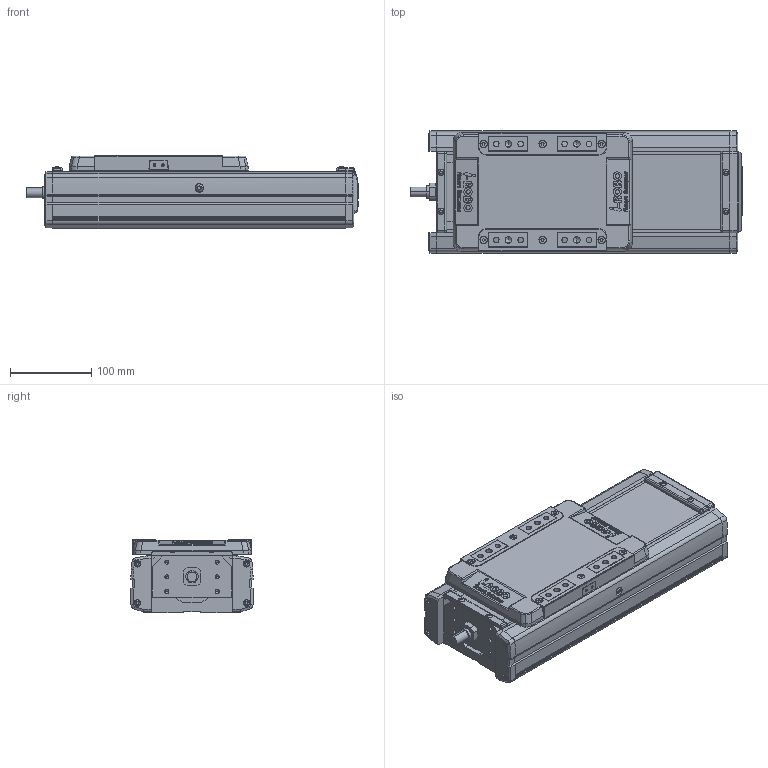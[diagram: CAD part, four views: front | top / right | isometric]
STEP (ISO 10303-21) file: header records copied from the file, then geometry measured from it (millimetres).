
FILE_DESCRIPTION(('STEP AP214'),'1');
FILE_NAME('Z:/Web/3D/SAN150/2013.04 (STP.)/SAN150ㅁㅁ-100.stp','2013-05-08T02:36:20',(' '),(' '),'Spatial InterOp 3D',' ',' ');
FILE_SCHEMA(('automotive_design'));
Length unit declared in the file: millimetre
Products named in the file (33): SLBL-SAN150; SLCV-SAN150; FHCS M4.0 x 8.0; BHCS M4.0 x 10.0; SFX-SAN150; RRCV-SAN150; FRBL-SAN150; Spacer; RN15; FRCV-SAN150; Screw 20; BASE-SAN150-000L ; SUS COVER; 스크루 : Round - M5.0 x 6.0
Bounding box: 408 x 150 x 90 mm (x, y, z)
Volume: 2761720.6 mm3; surface area: 527037.9 mm2
Topology: 33 solids, 33 shells, 1899 faces, 4905 edges, 3138 vertices
Faces by surface type: plane 955, cylinder 669, cone 198, sphere 44, bspline 21, torus 12
Entity records: 75223 total; most frequent: CARTESIAN_POINT 12073, DIRECTION 10330, ORIENTED_EDGE 9634, EDGE_CURVE 4817, AXIS2_PLACEMENT_3D 3662, VERTEX_POINT 3138, LINE 3006, VECTOR 3006
